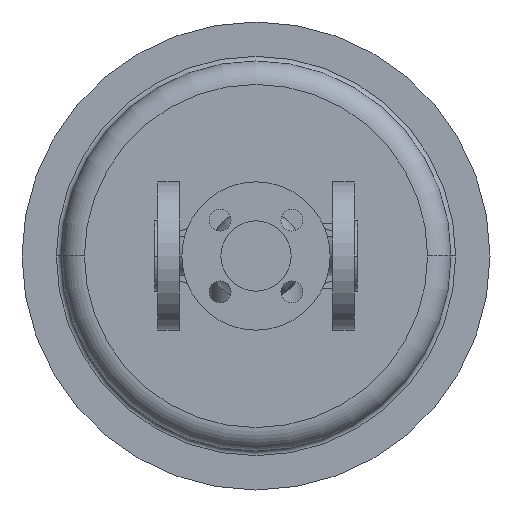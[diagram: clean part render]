
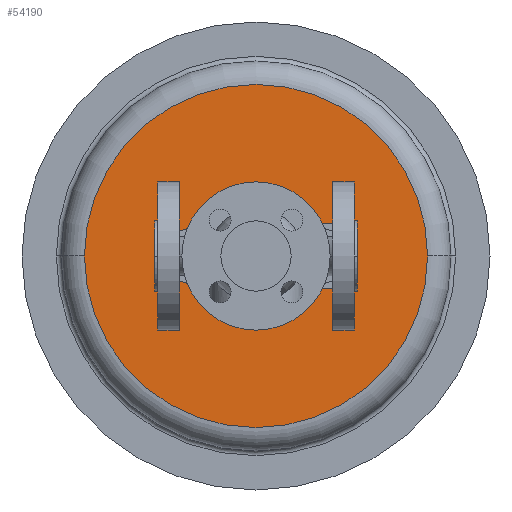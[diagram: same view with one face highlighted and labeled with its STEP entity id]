
A CAD part, front view. The second image highlights one B-rep face of the part: STEP entity #54190.
In plain terms, the highlighted planar face has unit normal (0, -1, 0).
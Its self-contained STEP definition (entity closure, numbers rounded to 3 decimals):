
#40710=CARTESIAN_POINT('',(175.,356.,0.));
#40720=VERTEX_POINT('',#40710);
#40820=CARTESIAN_POINT('',(-45.,356.,0.));
#40830=VERTEX_POINT('',#40820);
#40860=CARTESIAN_POINT('',(65.,356.,0.));
#40870=DIRECTION('',(0.,1.,0.));
#40880=DIRECTION('',(1.,0.,0.));
#40890=AXIS2_PLACEMENT_3D('',#40860,#40870,#40880);
#40900=CIRCLE('',#40890,110.);
#40910=CARTESIAN_POINT('',(65.,356.,-110.));
#40920=VERTEX_POINT('',#40910);
#40930=EDGE_CURVE('',#40920,#40830,#40900,.T.);
#40950=EDGE_CURVE('',#40720,#40920,#40900,.T.);
#41530=CARTESIAN_POINT('',(100.,356.,0.));
#41540=VERTEX_POINT('',#41530);
#41700=CARTESIAN_POINT('',(130.,356.,0.));
#41710=VERTEX_POINT('',#41700);
#41740=CARTESIAN_POINT('',(115.,356.,0.));
#41750=DIRECTION('',(0.,1.,0.));
#41760=DIRECTION('',(1.,0.,0.));
#41770=AXIS2_PLACEMENT_3D('',#41740,#41750,#41760);
#41780=CIRCLE('',#41770,15.);
#41790=EDGE_CURVE('',#41710,#41540,#41780,.T.);
#41950=CARTESIAN_POINT('',(0.,356.,0.));
#41960=VERTEX_POINT('',#41950);
#41990=CARTESIAN_POINT('',(15.,356.,0.));
#42000=DIRECTION('',(0.,1.,0.));
#42010=DIRECTION('',(1.,0.,0.));
#42020=AXIS2_PLACEMENT_3D('',#41990,#42000,#42010);
#42030=CIRCLE('',#42020,15.);
#42040=CARTESIAN_POINT('',(30.,356.,0.));
#42050=VERTEX_POINT('',#42040);
#42060=EDGE_CURVE('',#41960,#42050,#42030,.T.);
#42350=CARTESIAN_POINT('',(83.45,356.,0.));
#42360=VERTEX_POINT('',#42350);
#42410=CARTESIAN_POINT('',(65.,356.,0.));
#42420=DIRECTION('',(0.,1.,0.));
#42430=DIRECTION('',(1.,0.,0.));
#42440=AXIS2_PLACEMENT_3D('',#42410,#42420,#42430);
#42450=CIRCLE('',#42440,18.45);
#42460=CARTESIAN_POINT('',(46.55,356.,0.));
#42470=VERTEX_POINT('',#42460);
#42480=EDGE_CURVE('',#42360,#42470,#42450,.T.);
#53930=CARTESIAN_POINT('',(120.,356.,0.));
#53940=DIRECTION('',(0.,-1.,0.));
#53950=DIRECTION('',(-1.,0.,0.));
#53960=AXIS2_PLACEMENT_3D('',#53930,#53940,#53950);
#53970=PLANE('',#53960);
#53980=ORIENTED_EDGE('',*,*,#42480,.T.);
#53990=EDGE_CURVE('',#42470,#42360,#42450,.T.);
#54000=ORIENTED_EDGE('',*,*,#53990,.T.);
#54010=EDGE_LOOP('',(#54000,#53980));
#54020=FACE_BOUND('',#54010,.T.);
#54030=EDGE_CURVE('',#42050,#41960,#42030,.T.);
#54040=ORIENTED_EDGE('',*,*,#54030,.T.);
#54050=ORIENTED_EDGE('',*,*,#42060,.T.);
#54060=EDGE_LOOP('',(#54050,#54040));
#54070=FACE_BOUND('',#54060,.T.);
#54080=EDGE_CURVE('',#41540,#41710,#41780,.T.);
#54090=ORIENTED_EDGE('',*,*,#54080,.T.);
#54100=ORIENTED_EDGE('',*,*,#41790,.T.);
#54110=EDGE_LOOP('',(#54100,#54090));
#54120=FACE_BOUND('',#54110,.T.);
#54130=ORIENTED_EDGE('',*,*,#40930,.F.);
#54140=EDGE_CURVE('',#40830,#40720,#40900,.T.);
#54150=ORIENTED_EDGE('',*,*,#54140,.F.);
#54160=ORIENTED_EDGE('',*,*,#40950,.F.);
#54170=EDGE_LOOP('',(#54160,#54150,#54130));
#54180=FACE_OUTER_BOUND('',#54170,.T.);
#54190=ADVANCED_FACE('',(#54020,#54070,#54120,#54180),#53970,.T.);
